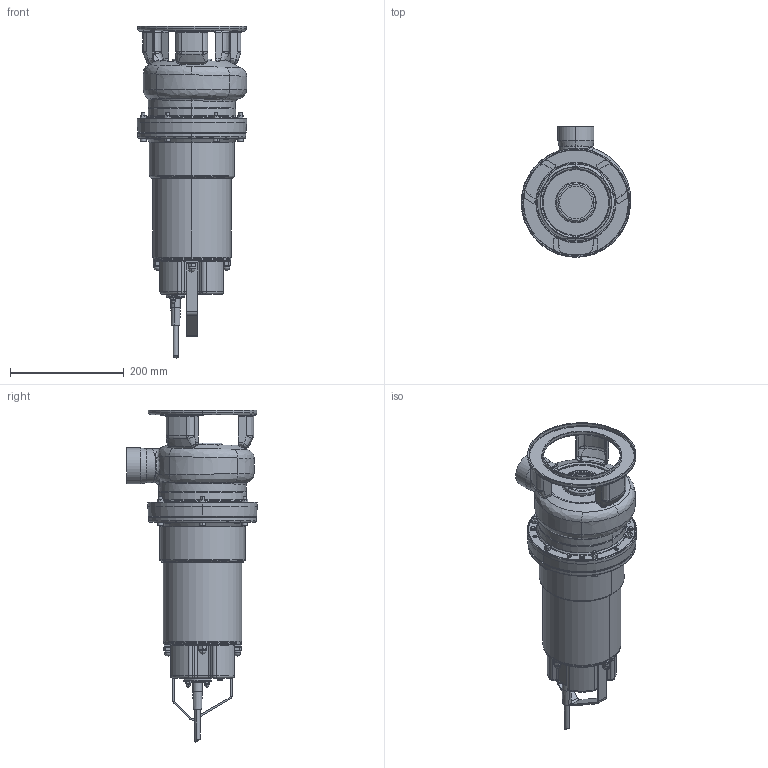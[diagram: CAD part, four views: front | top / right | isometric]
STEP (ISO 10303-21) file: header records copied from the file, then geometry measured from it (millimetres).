
FILE_DESCRIPTION((''),'2;1');
FILE_NAME('DW_300_ASM','2009-09-28T',('Utente'),('"Ebara Pumps Europe +39.444.706811"'),'PRO/ENGINEER BY PARAMETRIC TECHNOLOGY CORPORATION, 2008400','PRO/ENGINEER BY PARAMETRIC TECHNOLOGY CORPORATION, 2008400','');
FILE_SCHEMA(('AUTOMOTIVE_DESIGN { 1 0 10303 214 1 1 1 1 }'));
Length unit declared in the file: millimetre
Products named in the file (16): 20698; DADO_A_SALDARE_M6; DADO_M5; 62023; 15032; 72074; CORPO_POMPA_DW_ASM; CASSA_MOTORE_ALTA_M6X45; COPERCHIO_MOTORE_25081; 60022; 16022; 66002_SEMPLICE; 65003_SEMPLICE; DADO_CALOTTA_M5; VITE_TCC_M5X8_UNI7687; DW_300_ASM
Assembly tree (26 placements, depth 3):
  DW_300_ASM
    CORPO_POMPA_DW_ASM
      20698
      DADO_A_SALDARE_M6  x6
      DADO_M5  x4
      62023
      15032
      72074  x3
    CASSA_MOTORE_ALTA_M6X45
    COPERCHIO_MOTORE_25081
    60022
    16022
    66002_SEMPLICE
    65003_SEMPLICE
    DADO_CALOTTA_M5  x2
    VITE_TCC_M5X8_UNI7687
Bounding box: 192.32 x 229 x 582.52 mm (x, y, z)
Volume: 4758275.8 mm3; surface area: 616206.9 mm2
Topology: 25 solids, 28 shells, 1115 faces, 2500 edges, 1500 vertices
Faces by surface type: plane 328, cylinder 327, bspline 176, torus 138, cone 118, sphere 24, extrusion 4
Entity records: 33831 total; most frequent: CARTESIAN_POINT 13678, DIRECTION 4187, ORIENTED_EDGE 3788, EDGE_CURVE 1896, AXIS2_PLACEMENT_3D 1783, VERTEX_POINT 1143, CIRCLE 980, EDGE_LOOP 945
